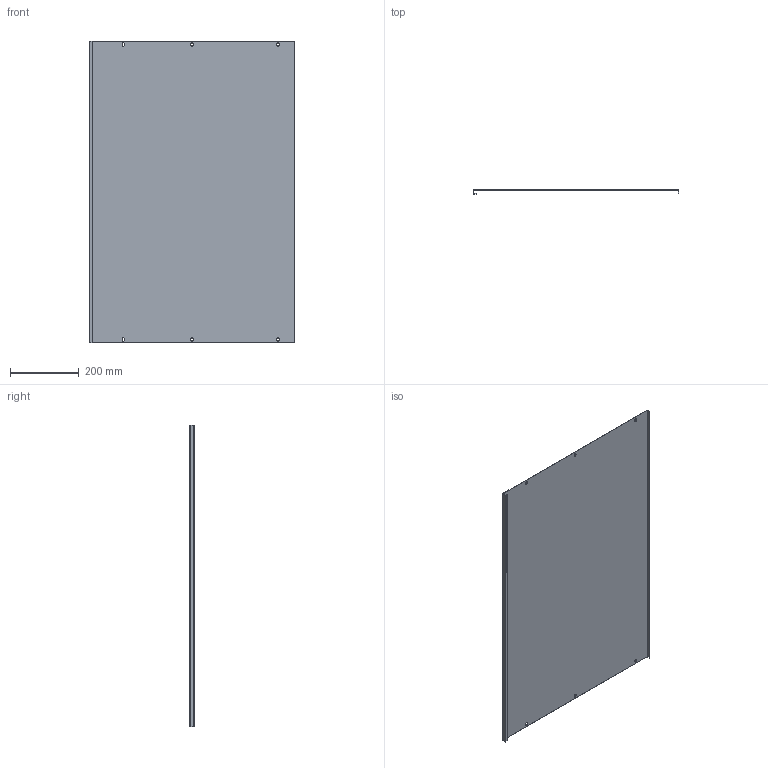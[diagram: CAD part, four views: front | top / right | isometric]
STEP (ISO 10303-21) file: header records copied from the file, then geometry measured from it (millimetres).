
FILE_DESCRIPTION (( 'STEP AP214' ), '1' );
FILE_NAME ('FO-00-PVS-060-100 Ïëàñòðîí ãëóõîé âíóòðåííèé 600õ1000.STEP', '2025-08-26T08:27:36', ( '' ), ( '' ), 'SwSTEP 2.0', 'SolidWorks 2023', '' );
FILE_SCHEMA (( 'AUTOMOTIVE_DESIGN' ));
Length unit declared in the file: millimetre
Products named in the file (1): FO-00-PVS-060-100 Пластрон глухой внутренний 600х1000
Bounding box: 598 x 12.5 x 879 mm (x, y, z)
Volume: 822208.6 mm3; surface area: 1101039.1 mm2
Topology: 1 solids, 1 shells, 52 faces, 150 edges, 100 vertices
Faces by surface type: plane 34, cylinder 18
Entity records: 1757 total; most frequent: CARTESIAN_POINT 303, ORIENTED_EDGE 300, DIRECTION 292, EDGE_CURVE 150, LINE 114, VECTOR 114, VERTEX_POINT 100, AXIS2_PLACEMENT_3D 89
